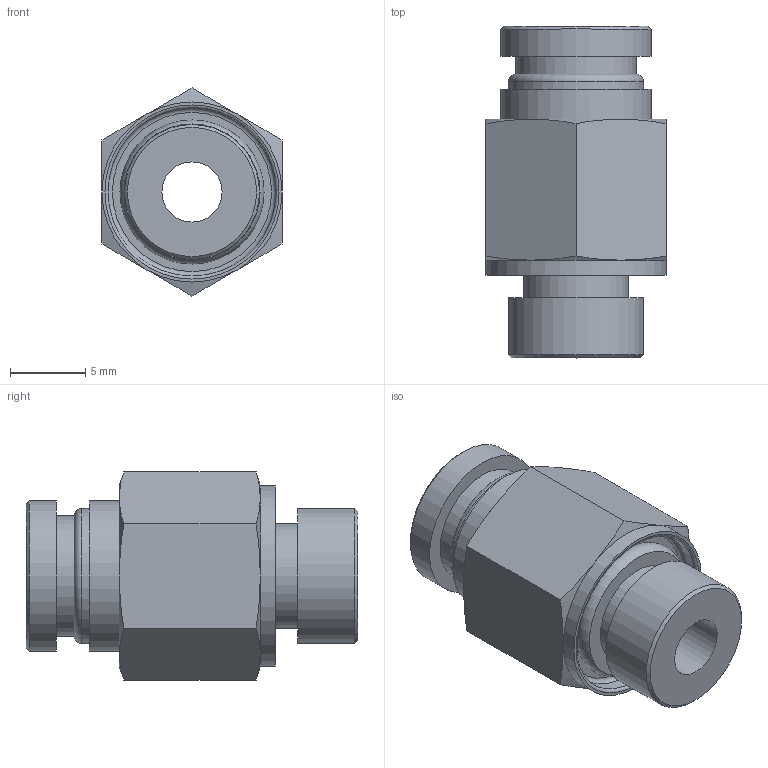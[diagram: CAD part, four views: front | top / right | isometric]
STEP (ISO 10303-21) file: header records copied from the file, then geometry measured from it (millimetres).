
FILE_DESCRIPTION(/* description */ (''),/* implementation_level */ '2;1');
FILE_NAME(/* name */ 'LXH18 0006 B1.stp',/* time_stamp */ '2026-04-20T19:14:24+02:00',/* author */ ('freju'),/* organization */ (''),/* preprocessor_version */ 'ST-DEVELOPER v20.1',/* originating_system */ 'Autodesk Inventor 2026',/* authorisation */ '');
FILE_SCHEMA (('AUTOMOTIVE_DESIGN { 1 0 10303 214 3 1 1 }'));
Length unit declared in the file: millimetre
Products named in the file (4): LXH18 0006 B1; LXH18 0006 B1_1; O-Ring; ISO 3601-1 - A 0060 G
Assembly tree (3 placements, depth 3):
  LXH18 0006 B1
    LXH18 0006 B1_1
    O-Ring
      ISO 3601-1 - A 0060 G
Bounding box: 12 x 22.1 x 13.86 mm (x, y, z)
Volume: 1495.2 mm3; surface area: 1652 mm2
Topology: 2 solids, 2 shells, 50 faces, 101 edges, 63 vertices
Faces by surface type: plane 18, cone 14, cylinder 11, torus 7
Full cylindrical faces by diameter (mm): 4 x1, 6 x2, 7 x1, 8 x1, 9 x2, 10 x2, 11.2 x1, 12 x1
Entity records: 1445 total; most frequent: CARTESIAN_POINT 269, DIRECTION 249, ORIENTED_EDGE 202, AXIS2_PLACEMENT_3D 115, EDGE_CURVE 101, VERTEX_POINT 63, EDGE_LOOP 62, CIRCLE 58
